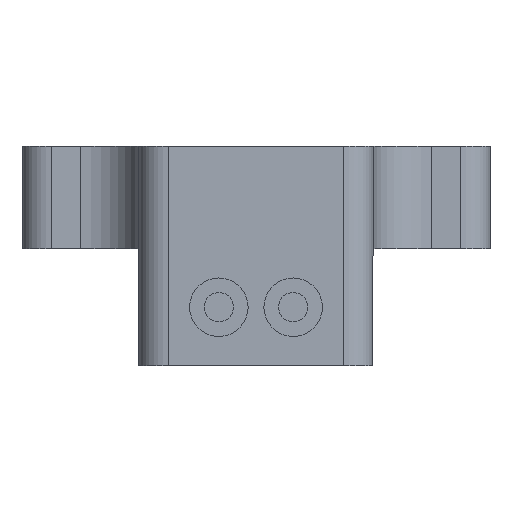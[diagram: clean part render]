
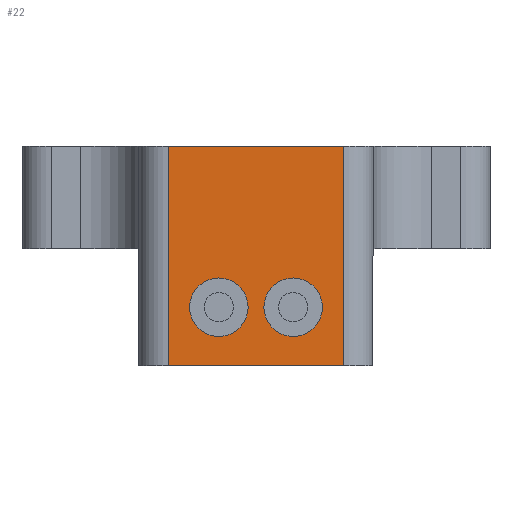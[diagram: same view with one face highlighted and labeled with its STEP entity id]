
A CAD part, left-side view. The second image highlights one B-rep face of the part: STEP entity #22.
In plain terms, the highlighted planar face has unit normal (-1, 0, 0).
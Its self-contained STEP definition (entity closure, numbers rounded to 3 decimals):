
#22 = ADVANCED_FACE ( 'NONE', ( #711, #1189, #1071 ), #475, .T. ) ;
#30 = DIRECTION ( 'NONE',  ( 0., -1., 0. ) ) ;
#37 = CARTESIAN_POINT ( 'NONE',  ( -11.9, -3., 2.7 ) ) ;
#47 = VECTOR ( 'NONE', #174, 1000. ) ;
#53 = LINE ( 'NONE', #903, #320 ) ;
#56 = CARTESIAN_POINT ( 'NONE',  ( -11.9, 1.27, -2.8 ) ) ;
#63 = DIRECTION ( 'NONE',  ( 0., -1., 0. ) ) ;
#90 = AXIS2_PLACEMENT_3D ( 'NONE', #310, #1260, #534 ) ;
#137 = EDGE_CURVE ( 'NONE', #343, #368, #1336, .T. ) ;
#145 = VECTOR ( 'NONE', #622, 1000. ) ;
#149 = DIRECTION ( 'NONE',  ( 0., -1., 0. ) ) ;
#154 = CARTESIAN_POINT ( 'NONE',  ( -11.9, 3., -4.8 ) ) ;
#172 = EDGE_LOOP ( 'NONE', ( #461, #608 ) ) ;
#173 = EDGE_LOOP ( 'NONE', ( #354, #1283 ) ) ;
#174 = DIRECTION ( 'NONE',  ( 0., 0., -1. ) ) ;
#178 = AXIS2_PLACEMENT_3D ( 'NONE', #1442, #870, #30 ) ;
#218 = ORIENTED_EDGE ( 'NONE', *, *, #137, .F. ) ;
#240 = CARTESIAN_POINT ( 'NONE',  ( -11.9, -2.27, -2.8 ) ) ;
#248 = EDGE_CURVE ( 'NONE', #696, #694, #781, .T. ) ;
#280 = CARTESIAN_POINT ( 'NONE',  ( -11.9, -3., 2.7 ) ) ;
#310 = CARTESIAN_POINT ( 'NONE',  ( -11.9, -1.27, -2.8 ) ) ;
#320 = VECTOR ( 'NONE', #757, 1000. ) ;
#343 = VERTEX_POINT ( 'NONE', #597 ) ;
#354 = ORIENTED_EDGE ( 'NONE', *, *, #1251, .F. ) ;
#368 = VERTEX_POINT ( 'NONE', #593 ) ;
#387 = AXIS2_PLACEMENT_3D ( 'NONE', #1242, #1137, #63 ) ;
#403 = CARTESIAN_POINT ( 'NONE',  ( -11.9, 0.27, -2.8 ) ) ;
#424 = DIRECTION ( 'NONE',  ( -1., 0., 0. ) ) ;
#461 = ORIENTED_EDGE ( 'NONE', *, *, #1241, .F. ) ;
#475 = PLANE ( 'NONE',  #178 ) ;
#479 = CIRCLE ( 'NONE', #90, 1. ) ;
#505 = DIRECTION ( 'NONE',  ( 0., -1., 0. ) ) ;
#507 = AXIS2_PLACEMENT_3D ( 'NONE', #1131, #424, #1019 ) ;
#511 = VERTEX_POINT ( 'NONE', #280 ) ;
#514 = EDGE_CURVE ( 'NONE', #1258, #368, #521, .T. ) ;
#521 = LINE ( 'NONE', #1355, #47 ) ;
#528 = DIRECTION ( 'NONE',  ( -1., 0., 0. ) ) ;
#534 = DIRECTION ( 'NONE',  ( 0., -1., 0. ) ) ;
#538 = VERTEX_POINT ( 'NONE', #893 ) ;
#593 = CARTESIAN_POINT ( 'NONE',  ( -11.9, 3., -4.8 ) ) ;
#597 = CARTESIAN_POINT ( 'NONE',  ( -11.9, -3., -4.8 ) ) ;
#608 = ORIENTED_EDGE ( 'NONE', *, *, #842, .F. ) ;
#622 = DIRECTION ( 'NONE',  ( 0., 1., 0. ) ) ;
#649 = CIRCLE ( 'NONE', #856, 1. ) ;
#676 = ORIENTED_EDGE ( 'NONE', *, *, #926, .F. ) ;
#694 = VERTEX_POINT ( 'NONE', #240 ) ;
#696 = VERTEX_POINT ( 'NONE', #1316 ) ;
#711 = FACE_BOUND ( 'NONE', #173, .T. ) ;
#757 = DIRECTION ( 'NONE',  ( 0., 0., 1. ) ) ;
#781 = CIRCLE ( 'NONE', #507, 1. ) ;
#842 = EDGE_CURVE ( 'NONE', #538, #1161, #649, .T. ) ;
#856 = AXIS2_PLACEMENT_3D ( 'NONE', #56, #528, #149 ) ;
#870 = DIRECTION ( 'NONE',  ( -1., 0., 0. ) ) ;
#893 = CARTESIAN_POINT ( 'NONE',  ( -11.9, 2.27, -2.8 ) ) ;
#903 = CARTESIAN_POINT ( 'NONE',  ( -11.9, -3., 2.05 ) ) ;
#926 = EDGE_CURVE ( 'NONE', #1258, #511, #978, .T. ) ;
#978 = LINE ( 'NONE', #37, #1233 ) ;
#1019 = DIRECTION ( 'NONE',  ( 0., -1., 0. ) ) ;
#1071 = FACE_OUTER_BOUND ( 'NONE', #1531, .T. ) ;
#1128 = CIRCLE ( 'NONE', #387, 1. ) ;
#1131 = CARTESIAN_POINT ( 'NONE',  ( -11.9, -1.27, -2.8 ) ) ;
#1137 = DIRECTION ( 'NONE',  ( -1., 0., 0. ) ) ;
#1161 = VERTEX_POINT ( 'NONE', #403 ) ;
#1188 = EDGE_CURVE ( 'NONE', #343, #511, #53, .T. ) ;
#1189 = FACE_BOUND ( 'NONE', #172, .T. ) ;
#1233 = VECTOR ( 'NONE', #505, 1000. ) ;
#1241 = EDGE_CURVE ( 'NONE', #1161, #538, #1128, .T. ) ;
#1242 = CARTESIAN_POINT ( 'NONE',  ( -11.9, 1.27, -2.8 ) ) ;
#1251 = EDGE_CURVE ( 'NONE', #694, #696, #479, .T. ) ;
#1258 = VERTEX_POINT ( 'NONE', #1271 ) ;
#1260 = DIRECTION ( 'NONE',  ( -1., 0., 0. ) ) ;
#1271 = CARTESIAN_POINT ( 'NONE',  ( -11.9, 3., 2.7 ) ) ;
#1282 = ORIENTED_EDGE ( 'NONE', *, *, #514, .T. ) ;
#1283 = ORIENTED_EDGE ( 'NONE', *, *, #248, .F. ) ;
#1316 = CARTESIAN_POINT ( 'NONE',  ( -11.9, -0.27, -2.8 ) ) ;
#1336 = LINE ( 'NONE', #154, #145 ) ;
#1355 = CARTESIAN_POINT ( 'NONE',  ( -11.9, 3., -4.75 ) ) ;
#1442 = CARTESIAN_POINT ( 'NONE',  ( -11.9, 4., 2.05 ) ) ;
#1449 = ORIENTED_EDGE ( 'NONE', *, *, #1188, .T. ) ;
#1531 = EDGE_LOOP ( 'NONE', ( #1282, #218, #1449, #676 ) ) ;
